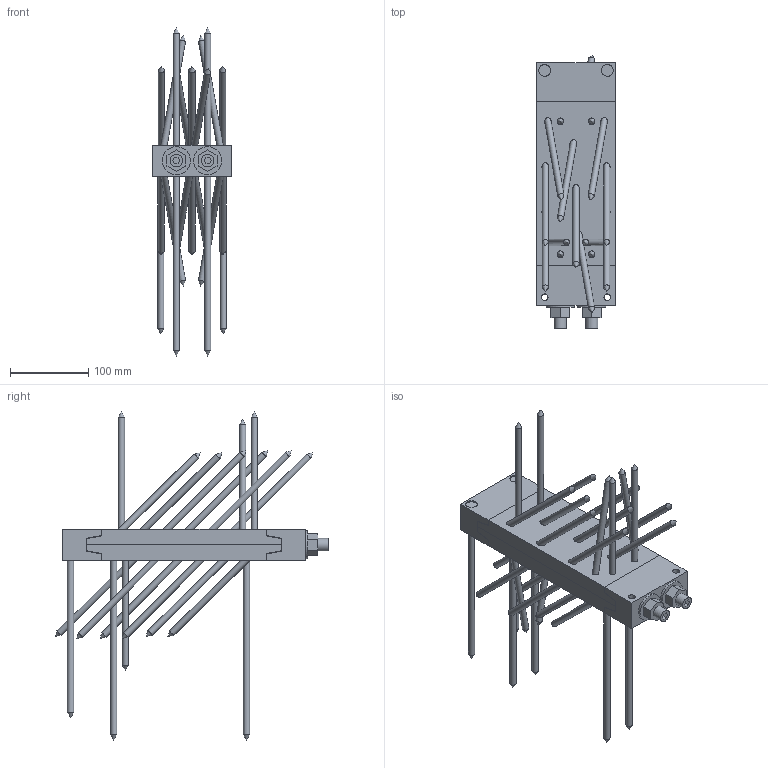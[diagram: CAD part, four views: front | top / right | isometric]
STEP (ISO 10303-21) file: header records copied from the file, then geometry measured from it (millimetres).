
FILE_DESCRIPTION(/* description */ ('Unknown'),/* implementation_level */ '2;1');
FILE_NAME(/* name */ 'MEGANT_310x100x40_Verdeckt',/* time_stamp */ '2020-05-05T17:01:53+02:00',/* author */ ('Unknown'),/* organization */ ('Unknown'),/* preprocessor_version */ 'ST-DEVELOPER v16.7',/* originating_system */ 'DEX',/* authorisation */ $);
FILE_SCHEMA (('AUTOMOTIVE_DESIGN {1 0 10303 214 3 1 1}'));
Length unit declared in the file: millimetre
Products named in the file (13): MEGANT_310x100x40_Verdeckt; Verbinderplatte_250x100x20_NT; Verbinderplatte_250x100x20; SK_Schraube_8x240; SK_Schraube_8x160; Verbinderplatte_250x100x20_HT; Spannbacke_oben_100x50x40; Spannbacke_unten_100x50x40_NT; Spannbacke_unten_100x50x40; Gewindestange_M16_L340; Beilagscheibe_M16; Mutter_M16
Assembly tree (44 placements, depth 3):
  MEGANT_310x100x40_Verdeckt
    Verbinderplatte_250x100x20_NT
      Verbinderplatte_250x100x20
      SK_Schraube_8x240  x4
      SK_Schraube_8x160  x11
    Verbinderplatte_250x100x20_HT
      Verbinderplatte_250x100x20
      SK_Schraube_8x160  x15
    Spannbacke_oben_100x50x40
    Spannbacke_unten_100x50x40_NT
      Spannbacke_unten_100x50x40
      SK_Schraube_8x240  x2
    Gewindestange_M16_L340  x2
      Gewindestange_M16_L340
      Beilagscheibe_M16
      Mutter_M16
Bounding box: 100 x 349.49 x 420 mm (x, y, z)
Volume: 1418657.5 mm3; surface area: 402773.3 mm2
Topology: 42 solids, 42 shells, 460 faces, 1090 edges, 692 vertices
Faces by surface type: plane 210, cylinder 152, cone 98
Full cylindrical faces by diameter (mm): 8 x32, 8.5 x34, 13.835 x2, 14 x2, 15 x66, 16 x2, 17 x4, 36 x2
Entity records: 5664 total; most frequent: DIRECTION 924, CARTESIAN_POINT 862, ORIENTED_EDGE 724, EDGE_CURVE 362, AXIS2_PLACEMENT_3D 338, FACE_BOUND 306, EDGE_LOOP 304, VERTEX_POINT 276
